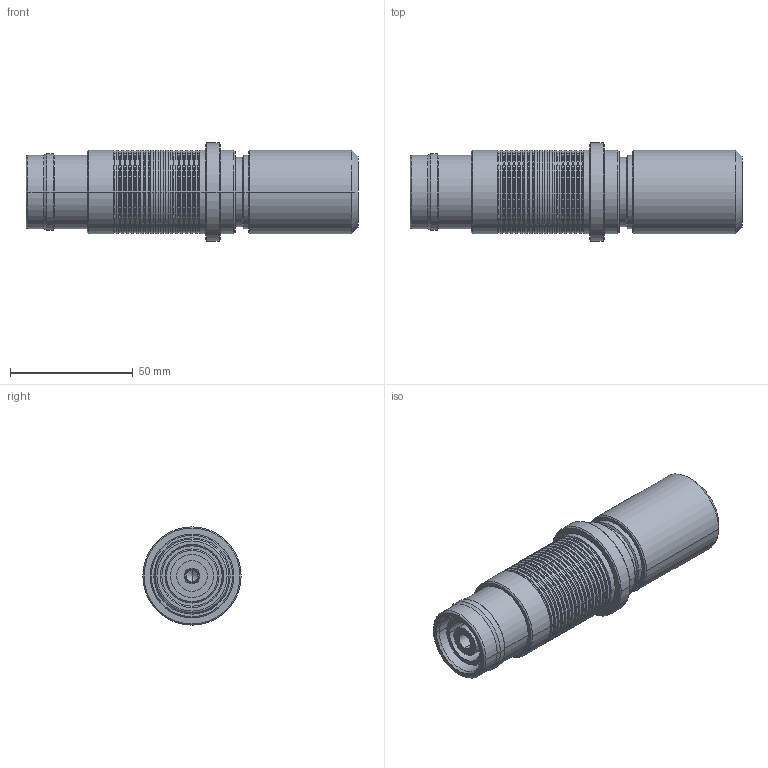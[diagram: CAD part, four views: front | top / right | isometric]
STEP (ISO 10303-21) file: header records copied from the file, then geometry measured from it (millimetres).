
FILE_DESCRIPTION((''),'2;1');
FILE_NAME('N:\Transfer\Berger Martin\Leybold\C13\210351.stp','2005-02-09T10:59:56',('PESO'),(''),'Autodesk Inventor 9','Autodesk Inventor 9','');
FILE_SCHEMA(('AUTOMOTIVE_DESIGN { 1 0 10303 214 1 1 1 1 }'));
Length unit declared in the file: millimetre
Products named in the file (1): 210351
Bounding box: 135 x 40 x 40 mm (x, y, z)
Volume: 79267.7 mm3; surface area: 31719 mm2
Topology: 1 solids, 1 shells, 288 faces, 605 edges, 337 vertices
Faces by surface type: cylinder 130, cone 110, plane 30, torus 10, bspline 8
Entity records: 7703 total; most frequent: DIRECTION 1502, CARTESIAN_POINT 1371, ORIENTED_EDGE 1202, AXIS2_PLACEMENT_3D 624, EDGE_CURVE 601, CIRCLE 339, VERTEX_POINT 337, EDGE_LOOP 310
